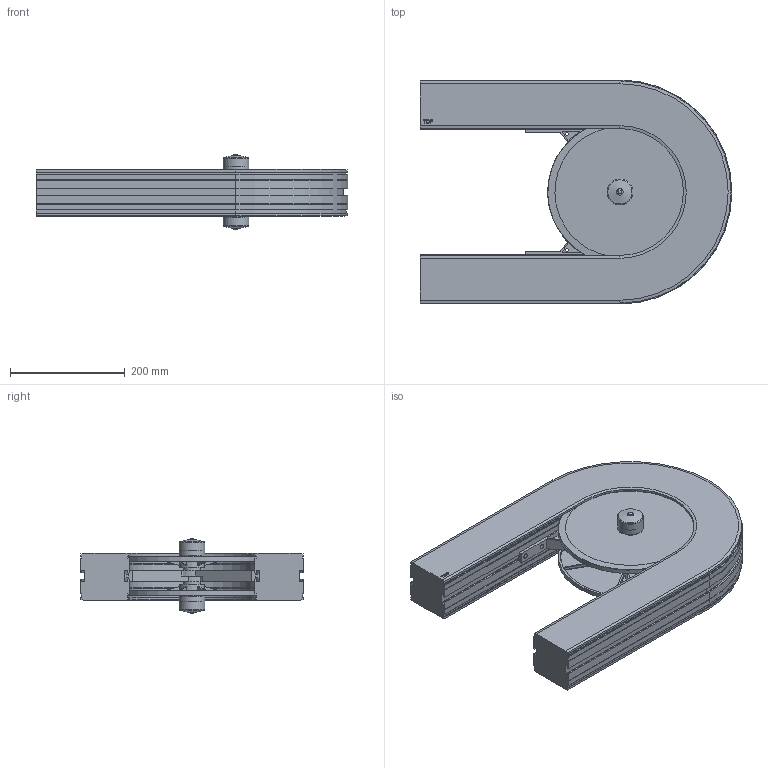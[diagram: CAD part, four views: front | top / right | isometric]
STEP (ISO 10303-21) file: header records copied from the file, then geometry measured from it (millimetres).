
FILE_DESCRIPTION((''),'2;1');
FILE_NAME('C:\Vault Klient\Projekt\Koncept konstruktion\Serie 830 Hjulkurva\830-5020.stp','2009-12-01T15:24:35',('Mathias'),(''),'Autodesk Inventor 2010','Autodesk Inventor 2010','');
FILE_SCHEMA(('CONFIG_CONTROL_DESIGN'));
Length unit declared in the file: millimetre
Products named in the file (5): 830-5020; 830-1000_06; 830-5026; 830-5027; FCWA-0413-025
Assembly tree (7 placements, depth 2):
  830-5020
    830-1000_06
    830-5026  x2
    830-5027  x2
    FCWA-0413-025  x2
Bounding box: 543 x 390 x 131.94 mm (x, y, z)
Volume: 8397889.2 mm3; surface area: 821142.6 mm2
Topology: 7 solids, 7 shells, 513 faces, 1344 edges, 868 vertices
Faces by surface type: plane 255, cylinder 120, bspline 88, cone 36, torus 10, sphere 4
Full cylindrical faces by diameter (mm): 6 x16, 29.5 x2, 30 x2, 34.5 x4, 41.3 x2, 45 x2, 50.3 x2, 252 x2
Entity records: 11810 total; most frequent: CARTESIAN_POINT 3615, ORIENTED_EDGE 1708, DIRECTION 1523, EDGE_CURVE 854, VERTEX_POINT 567, AXIS2_PLACEMENT_3D 511, VECTOR 501, LINE 501
